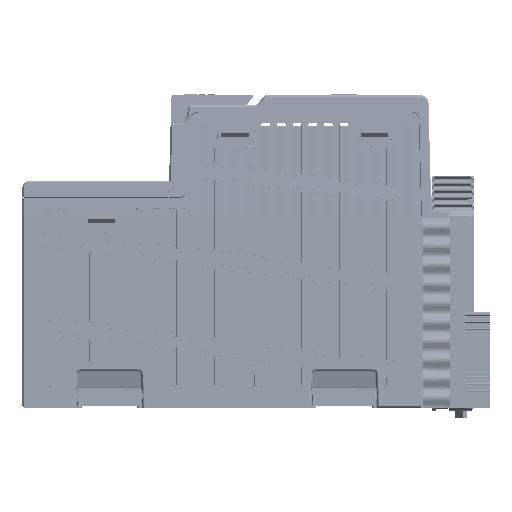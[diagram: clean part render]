
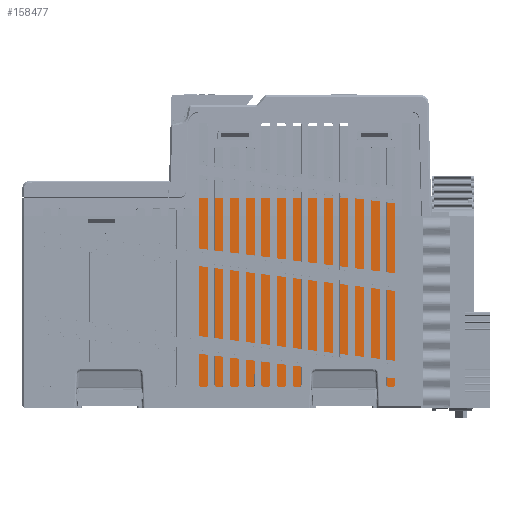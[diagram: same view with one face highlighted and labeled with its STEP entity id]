
A CAD part, front view. The second image highlights one B-rep face of the part: STEP entity #158477.
In plain terms, the highlighted planar face has unit normal (0, -1, 0).
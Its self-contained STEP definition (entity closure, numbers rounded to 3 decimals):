
#2646 = CARTESIAN_POINT ( 'NONE',  ( 23.9, -47.068, 17. ) ) ;
#4602 = CARTESIAN_POINT ( 'NONE',  ( -58.697, -47.068, 60.3 ) ) ;
#9068 = ORIENTED_EDGE ( 'NONE', *, *, #454072, .F. ) ;
#10650 = ORIENTED_EDGE ( 'NONE', *, *, #421921, .T. ) ;
#18512 = VERTEX_POINT ( 'NONE', #391238 ) ;
#24875 = LINE ( 'NONE', #152514, #475158 ) ;
#27052 = LINE ( 'NONE', #50830, #45368 ) ;
#32550 = CARTESIAN_POINT ( 'NONE',  ( 23.899, -47.068, 16.92 ) ) ;
#39372 = CARTESIAN_POINT ( 'NONE',  ( 51.208, -47.068, 2.5 ) ) ;
#45368 = VECTOR ( 'NONE', #314095, 1000. ) ;
#48258 = LINE ( 'NONE', #295426, #98102 ) ;
#50830 = CARTESIAN_POINT ( 'NONE',  ( 43.25, -47.068, 2.5 ) ) ;
#52691 = CARTESIAN_POINT ( 'NONE',  ( 9.35, -47.068, 2.5 ) ) ;
#53369 = LINE ( 'NONE', #396956, #364524 ) ;
#53921 = DIRECTION ( 'NONE',  ( -0.017, 0., -1. ) ) ;
#57127 = DIRECTION ( 'NONE',  ( -1., 0., 0. ) ) ;
#58342 = CARTESIAN_POINT ( 'NONE',  ( 19.35, -47.068, 2.5 ) ) ;
#60694 = AXIS2_PLACEMENT_3D ( 'NONE', #385151, #121901, #401235 ) ;
#64611 = EDGE_CURVE ( 'NONE', #147667, #72691, #124480, .T. ) ;
#66484 = CARTESIAN_POINT ( 'NONE',  ( 43.25, -47.068, 2.5 ) ) ;
#72691 = VERTEX_POINT ( 'NONE', #58342 ) ;
#74700 = VERTEX_POINT ( 'NONE', #438054 ) ;
#77030 = VECTOR ( 'NONE', #489473, 1000. ) ;
#77458 = CARTESIAN_POINT ( 'NONE',  ( 19.35, -47.068, 2.5 ) ) ;
#84959 = CARTESIAN_POINT ( 'NONE',  ( 19.53, -47.068, 12.8 ) ) ;
#92234 = DIRECTION ( 'NONE',  ( 1., 0., 0. ) ) ;
#98102 = VECTOR ( 'NONE', #335457, 1000. ) ;
#99929 = CARTESIAN_POINT ( 'NONE',  ( 43.25, -47.068, 12.8 ) ) ;
#105508 = FACE_OUTER_BOUND ( 'NONE', #180485, .T. ) ;
#114592 = CARTESIAN_POINT ( 'NONE',  ( -10.649, -47.068, 2.5 ) ) ;
#121901 = DIRECTION ( 'NONE',  ( 0., 1., 0. ) ) ;
#123854 = DIRECTION ( 'NONE',  ( -1., 0., 0. ) ) ;
#124480 = B_SPLINE_CURVE_WITH_KNOTS ( 'NONE', 3,
 ( #204360, #188656, #52691, #172621 ),
 .UNSPECIFIED., .F., .F.,
 ( 4, 4 ),
 ( 0., 1. ),
 .UNSPECIFIED. ) ;
#129021 = ORIENTED_EDGE ( 'NONE', *, *, #332673, .F. ) ;
#137443 = VERTEX_POINT ( 'NONE', #275623 ) ;
#138050 = EDGE_CURVE ( 'NONE', #147667, #447543, #53369, .T. ) ;
#142314 = B_SPLINE_CURVE_WITH_KNOTS ( 'NONE', 3,
 ( #66484, #159236, #462489, #39372 ),
 .UNSPECIFIED., .F., .F.,
 ( 4, 4 ),
 ( 0., 1. ),
 .UNSPECIFIED. ) ;
#144321 = VECTOR ( 'NONE', #92234, 1000. ) ;
#147667 = VERTEX_POINT ( 'NONE', #114592 ) ;
#152514 = CARTESIAN_POINT ( 'NONE',  ( 25.1, -47.068, 17. ) ) ;
#158477 = ADVANCED_FACE ( 'NONE', ( #105508 ), #280941, .F. ) ;
#159236 = CARTESIAN_POINT ( 'NONE',  ( 45.903, -47.068, 2.5 ) ) ;
#161029 = EDGE_CURVE ( 'NONE', #218394, #74700, #27052, .T. ) ;
#163747 = EDGE_CURVE ( 'NONE', #447543, #18512, #355843, .T. ) ;
#168685 = VECTOR ( 'NONE', #53921, 1000. ) ;
#172621 = CARTESIAN_POINT ( 'NONE',  ( 19.35, -47.068, 2.5 ) ) ;
#180271 = VECTOR ( 'NONE', #57127, 1000. ) ;
#180485 = EDGE_LOOP ( 'NONE', ( #352115, #332421, #360157, #295619, #234861, #129021, #334873, #186948, #355760, #10650, #9068, #438848 ) ) ;
#186948 = ORIENTED_EDGE ( 'NONE', *, *, #312684, .F. ) ;
#187085 = LINE ( 'NONE', #394680, #237675 ) ;
#188656 = CARTESIAN_POINT ( 'NONE',  ( -0.649, -47.068, 2.5 ) ) ;
#192997 = CARTESIAN_POINT ( 'NONE',  ( 23.863, -47.068, 12.8 ) ) ;
#196633 = CARTESIAN_POINT ( 'NONE',  ( 25.101, -47.068, 16.92 ) ) ;
#204360 = CARTESIAN_POINT ( 'NONE',  ( -10.649, -47.068, 2.5 ) ) ;
#204930 = EDGE_CURVE ( 'NONE', #445289, #289955, #272591, .T. ) ;
#218394 = VERTEX_POINT ( 'NONE', #287172 ) ;
#234861 = ORIENTED_EDGE ( 'NONE', *, *, #281556, .F. ) ;
#237675 = VECTOR ( 'NONE', #466413, 1000. ) ;
#241674 = CARTESIAN_POINT ( 'NONE',  ( -10.75, -47.068, 60.3 ) ) ;
#250337 = VERTEX_POINT ( 'NONE', #306961 ) ;
#272591 = LINE ( 'NONE', #352209, #180271 ) ;
#275623 = CARTESIAN_POINT ( 'NONE',  ( 25.137, -47.068, 12.8 ) ) ;
#280941 = PLANE ( 'NONE',  #60694 ) ;
#281556 = EDGE_CURVE ( 'NONE', #372758, #445289, #481284, .T. ) ;
#287172 = CARTESIAN_POINT ( 'NONE',  ( 43.25, -47.068, 2.5 ) ) ;
#289955 = VERTEX_POINT ( 'NONE', #84959 ) ;
#291282 = VERTEX_POINT ( 'NONE', #196633 ) ;
#295426 = CARTESIAN_POINT ( 'NONE',  ( 24.5, -47.068, 16.919 ) ) ;
#295619 = ORIENTED_EDGE ( 'NONE', *, *, #204930, .F. ) ;
#306961 = CARTESIAN_POINT ( 'NONE',  ( 51.208, -47.068, 2.5 ) ) ;
#312684 = EDGE_CURVE ( 'NONE', #74700, #137443, #427121, .T. ) ;
#312819 = VECTOR ( 'NONE', #123854, 1000. ) ;
#314095 = DIRECTION ( 'NONE',  ( -0.017, 0., 1. ) ) ;
#316804 = LINE ( 'NONE', #77458, #168685 ) ;
#317401 = EDGE_CURVE ( 'NONE', #137443, #291282, #24875, .T. ) ;
#332421 = ORIENTED_EDGE ( 'NONE', *, *, #64611, .T. ) ;
#332673 = EDGE_CURVE ( 'NONE', #291282, #372758, #48258, .T. ) ;
#334873 = ORIENTED_EDGE ( 'NONE', *, *, #317401, .F. ) ;
#335457 = DIRECTION ( 'NONE',  ( -1., 0., 0. ) ) ;
#352115 = ORIENTED_EDGE ( 'NONE', *, *, #138050, .F. ) ;
#352209 = CARTESIAN_POINT ( 'NONE',  ( 43.25, -47.068, 12.8 ) ) ;
#355760 = ORIENTED_EDGE ( 'NONE', *, *, #161029, .F. ) ;
#355843 = LINE ( 'NONE', #4602, #144321 ) ;
#360157 = ORIENTED_EDGE ( 'NONE', *, *, #424852, .F. ) ;
#364524 = VECTOR ( 'NONE', #405163, 1000. ) ;
#372758 = VERTEX_POINT ( 'NONE', #32550 ) ;
#385151 = CARTESIAN_POINT ( 'NONE',  ( -58.697, -47.068, 205.01 ) ) ;
#391238 = CARTESIAN_POINT ( 'NONE',  ( 51.208, -47.068, 60.3 ) ) ;
#394680 = CARTESIAN_POINT ( 'NONE',  ( 51.208, -47.068, 205.01 ) ) ;
#396956 = CARTESIAN_POINT ( 'NONE',  ( -10.75, -47.068, 60.3 ) ) ;
#401235 = DIRECTION ( 'NONE',  ( 0., 0., 1. ) ) ;
#405163 = DIRECTION ( 'NONE',  ( -0.002, 0., 1. ) ) ;
#407933 = DIRECTION ( 'NONE',  ( -0.009, 0., 1. ) ) ;
#421921 = EDGE_CURVE ( 'NONE', #218394, #250337, #142314, .T. ) ;
#424852 = EDGE_CURVE ( 'NONE', #289955, #72691, #316804, .T. ) ;
#427121 = LINE ( 'NONE', #99929, #312819 ) ;
#438054 = CARTESIAN_POINT ( 'NONE',  ( 43.07, -47.068, 12.8 ) ) ;
#438848 = ORIENTED_EDGE ( 'NONE', *, *, #163747, .F. ) ;
#445289 = VERTEX_POINT ( 'NONE', #192997 ) ;
#447543 = VERTEX_POINT ( 'NONE', #241674 ) ;
#454072 = EDGE_CURVE ( 'NONE', #18512, #250337, #187085, .T. ) ;
#462489 = CARTESIAN_POINT ( 'NONE',  ( 48.556, -47.068, 2.5 ) ) ;
#466413 = DIRECTION ( 'NONE',  ( 0., 0., -1. ) ) ;
#475158 = VECTOR ( 'NONE', #407933, 1000. ) ;
#481284 = LINE ( 'NONE', #2646, #77030 ) ;
#489473 = DIRECTION ( 'NONE',  ( -0.009, 0., -1. ) ) ;
